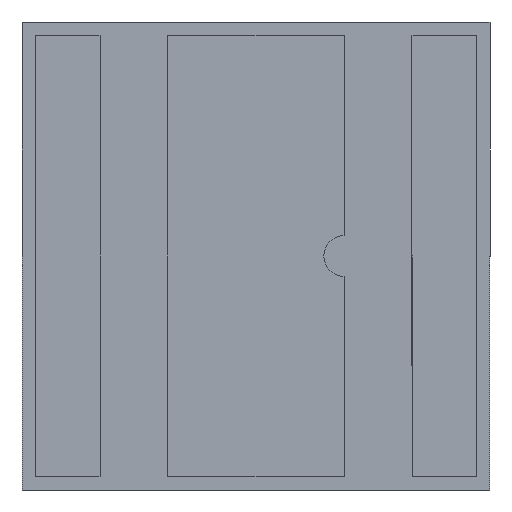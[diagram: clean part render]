
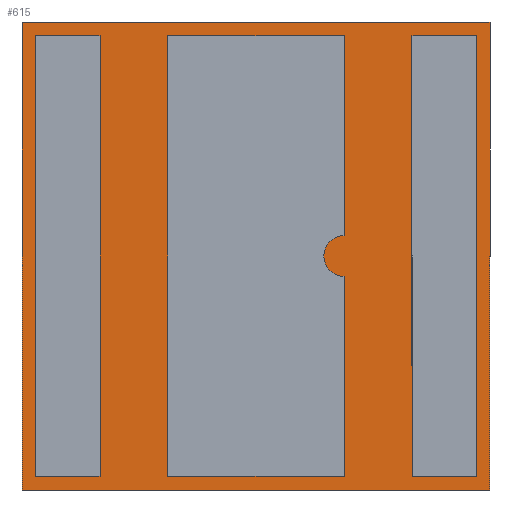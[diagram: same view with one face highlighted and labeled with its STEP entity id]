
A CAD part, front view. The second image highlights one B-rep face of the part: STEP entity #615.
In plain terms, the highlighted planar face has unit normal (0, -1, 0).
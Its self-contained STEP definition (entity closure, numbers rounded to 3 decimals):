
#3 = CARTESIAN_POINT ( 'NONE',  ( 1.625, 0., -1.625 ) ) ;
#9 = VECTOR ( 'NONE', #338, 1000. ) ;
#10 = ORIENTED_EDGE ( 'NONE', *, *, #570, .F. ) ;
#12 = DIRECTION ( 'NONE',  ( 0., 0., 1. ) ) ;
#28 = EDGE_LOOP ( 'NONE', ( #600, #41, #342, #10 ) ) ;
#33 = CARTESIAN_POINT ( 'NONE',  ( -1.15, 0., 1.625 ) ) ;
#38 = ORIENTED_EDGE ( 'NONE', *, *, #73, .F. ) ;
#39 = LINE ( 'NONE', #368, #820 ) ;
#41 = ORIENTED_EDGE ( 'NONE', *, *, #549, .F. ) ;
#47 = VERTEX_POINT ( 'NONE', #525 ) ;
#49 = CARTESIAN_POINT ( 'NONE',  ( -1.15, 0., 1.625 ) ) ;
#51 = EDGE_CURVE ( 'NONE', #721, #47, #39, .T. ) ;
#54 = VECTOR ( 'NONE', #914, 1000. ) ;
#63 = VERTEX_POINT ( 'NONE', #3 ) ;
#69 = CARTESIAN_POINT ( 'NONE',  ( -1.725, 0., -1.725 ) ) ;
#73 = EDGE_CURVE ( 'NONE', #745, #581, #703, .T. ) ;
#75 = CARTESIAN_POINT ( 'NONE',  ( 0.65, 0., -1.625 ) ) ;
#76 = EDGE_CURVE ( 'NONE', #626, #904, #488, .T. ) ;
#79 = VERTEX_POINT ( 'NONE', #75 ) ;
#85 = CARTESIAN_POINT ( 'NONE',  ( -1.725, 0., -1.725 ) ) ;
#88 = CARTESIAN_POINT ( 'NONE',  ( 1.15, 0., 0.137 ) ) ;
#94 = ORIENTED_EDGE ( 'NONE', *, *, #957, .F. ) ;
#98 = VECTOR ( 'NONE', #420, 1000. ) ;
#109 = VERTEX_POINT ( 'NONE', #634 ) ;
#111 = LINE ( 'NONE', #861, #950 ) ;
#119 = CARTESIAN_POINT ( 'NONE',  ( 1.725, 0., 1.725 ) ) ;
#123 = LINE ( 'NONE', #956, #98 ) ;
#135 = VERTEX_POINT ( 'NONE', #175 ) ;
#150 = LINE ( 'NONE', #85, #688 ) ;
#151 = LINE ( 'NONE', #49, #860 ) ;
#153 = LINE ( 'NONE', #88, #592 ) ;
#171 = CARTESIAN_POINT ( 'NONE',  ( -1.725, 0., -1.725 ) ) ;
#172 = PLANE ( 'NONE',  #659 ) ;
#175 = CARTESIAN_POINT ( 'NONE',  ( -1.725, 0., 1.725 ) ) ;
#179 = EDGE_LOOP ( 'NONE', ( #393, #460, #805, #38 ) ) ;
#183 = LINE ( 'NONE', #69, #590 ) ;
#186 = VECTOR ( 'NONE', #403, 1000. ) ;
#210 = VERTEX_POINT ( 'NONE', #725 ) ;
#215 = LINE ( 'NONE', #867, #9 ) ;
#222 = EDGE_CURVE ( 'NONE', #348, #558, #251, .T. ) ;
#228 = EDGE_CURVE ( 'NONE', #930, #63, #123, .T. ) ;
#251 = LINE ( 'NONE', #33, #545 ) ;
#253 = DIRECTION ( 'NONE',  ( 0., 0., -1. ) ) ;
#256 = DIRECTION ( 'NONE',  ( 0., 1., 0. ) ) ;
#261 = LINE ( 'NONE', #523, #559 ) ;
#269 = CARTESIAN_POINT ( 'NONE',  ( -1.15, 0., -1.625 ) ) ;
#277 = VERTEX_POINT ( 'NONE', #577 ) ;
#297 = DIRECTION ( 'NONE',  ( 1., 0., 0. ) ) ;
#301 = VECTOR ( 'NONE', #631, 1000. ) ;
#302 = VERTEX_POINT ( 'NONE', #119 ) ;
#307 = CARTESIAN_POINT ( 'NONE',  ( -1.625, 0., 1.625 ) ) ;
#315 = DIRECTION ( 'NONE',  ( 0., 0., -1. ) ) ;
#325 = CARTESIAN_POINT ( 'NONE',  ( 0.65, 0., 1.625 ) ) ;
#327 = CIRCLE ( 'NONE', #756, 0.15 ) ;
#336 = DIRECTION ( 'NONE',  ( 0., 0., 1. ) ) ;
#338 = DIRECTION ( 'NONE',  ( 1., 0., 0. ) ) ;
#342 = ORIENTED_EDGE ( 'NONE', *, *, #707, .F. ) ;
#348 = VERTEX_POINT ( 'NONE', #269 ) ;
#352 = EDGE_CURVE ( 'NONE', #558, #745, #151, .T. ) ;
#367 = VERTEX_POINT ( 'NONE', #664 ) ;
#368 = CARTESIAN_POINT ( 'NONE',  ( 0.65, 0., 1.625 ) ) ;
#373 = LINE ( 'NONE', #792, #186 ) ;
#393 = ORIENTED_EDGE ( 'NONE', *, *, #352, .F. ) ;
#403 = DIRECTION ( 'NONE',  ( 1., 0., 0. ) ) ;
#411 = DIRECTION ( 'NONE',  ( 0., 0., 1. ) ) ;
#418 = VECTOR ( 'NONE', #336, 1000. ) ;
#420 = DIRECTION ( 'NONE',  ( 1., 0., 0. ) ) ;
#435 = FACE_BOUND ( 'NONE', #487, .T. ) ;
#455 = DIRECTION ( 'NONE',  ( 0., 0., 1. ) ) ;
#456 = CARTESIAN_POINT ( 'NONE',  ( 1.625, 0., 1.625 ) ) ;
#460 = ORIENTED_EDGE ( 'NONE', *, *, #222, .F. ) ;
#468 = CARTESIAN_POINT ( 'NONE',  ( 1.625, 0., 1.625 ) ) ;
#470 = CARTESIAN_POINT ( 'NONE',  ( 0.65, 0., -0.15 ) ) ;
#476 = CARTESIAN_POINT ( 'NONE',  ( 1.15, 0., 1.625 ) ) ;
#487 = EDGE_LOOP ( 'NONE', ( #686, #775, #675, #493, #913, #717 ) ) ;
#488 = LINE ( 'NONE', #456, #982 ) ;
#489 = DIRECTION ( 'NONE',  ( 0., 0., 1. ) ) ;
#493 = ORIENTED_EDGE ( 'NONE', *, *, #662, .F. ) ;
#512 = ORIENTED_EDGE ( 'NONE', *, *, #859, .F. ) ;
#523 = CARTESIAN_POINT ( 'NONE',  ( -1.725, 0., 1.725 ) ) ;
#525 = CARTESIAN_POINT ( 'NONE',  ( -0.65, 0., 1.625 ) ) ;
#527 = FACE_OUTER_BOUND ( 'NONE', #28, .T. ) ;
#528 = CARTESIAN_POINT ( 'NONE',  ( -1.15, 0., 1.625 ) ) ;
#532 = EDGE_LOOP ( 'NONE', ( #895, #512, #613, #94 ) ) ;
#538 = CARTESIAN_POINT ( 'NONE',  ( -1.625, 0., -1.625 ) ) ;
#545 = VECTOR ( 'NONE', #489, 1000. ) ;
#549 = EDGE_CURVE ( 'NONE', #367, #743, #183, .T. ) ;
#550 = CARTESIAN_POINT ( 'NONE',  ( 0.65, 0., 0. ) ) ;
#557 = CARTESIAN_POINT ( 'NONE',  ( 1.625, 0., -1.625 ) ) ;
#558 = VERTEX_POINT ( 'NONE', #528 ) ;
#559 = VECTOR ( 'NONE', #297, 1000. ) ;
#569 = CARTESIAN_POINT ( 'NONE',  ( -0.65, 0., 1.625 ) ) ;
#570 = EDGE_CURVE ( 'NONE', #135, #302, #261, .T. ) ;
#577 = CARTESIAN_POINT ( 'NONE',  ( 0.65, 0., -0.15 ) ) ;
#581 = VERTEX_POINT ( 'NONE', #538 ) ;
#590 = VECTOR ( 'NONE', #754, 1000. ) ;
#592 = VECTOR ( 'NONE', #253, 1000. ) ;
#600 = ORIENTED_EDGE ( 'NONE', *, *, #606, .F. ) ;
#604 = CARTESIAN_POINT ( 'NONE',  ( -1.625, 0., 1.625 ) ) ;
#605 = DIRECTION ( 'NONE',  ( -1., 0., 0. ) ) ;
#606 = EDGE_CURVE ( 'NONE', #743, #135, #150, .T. ) ;
#607 = CARTESIAN_POINT ( 'NONE',  ( 0., 0., 0. ) ) ;
#613 = ORIENTED_EDGE ( 'NONE', *, *, #76, .F. ) ;
#614 = VECTOR ( 'NONE', #411, 1000. ) ;
#615 = ADVANCED_FACE ( 'NONE', ( #739, #527, #435, #971 ), #172, .F. ) ;
#625 = CARTESIAN_POINT ( 'NONE',  ( 0.65, 0., 1.625 ) ) ;
#626 = VERTEX_POINT ( 'NONE', #468 ) ;
#631 = DIRECTION ( 'NONE',  ( 0., 0., 1. ) ) ;
#634 = CARTESIAN_POINT ( 'NONE',  ( 0.65, 0., 0.15 ) ) ;
#638 = CARTESIAN_POINT ( 'NONE',  ( 1.15, 0., -1.625 ) ) ;
#653 = DIRECTION ( 'NONE',  ( 0., 0., -1. ) ) ;
#657 = EDGE_CURVE ( 'NONE', #277, #109, #327, .T. ) ;
#659 = AXIS2_PLACEMENT_3D ( 'NONE', #607, #923, #455 ) ;
#662 = EDGE_CURVE ( 'NONE', #79, #277, #750, .T. ) ;
#664 = CARTESIAN_POINT ( 'NONE',  ( 1.725, 0., -1.725 ) ) ;
#675 = ORIENTED_EDGE ( 'NONE', *, *, #657, .F. ) ;
#686 = ORIENTED_EDGE ( 'NONE', *, *, #51, .F. ) ;
#688 = VECTOR ( 'NONE', #12, 1000. ) ;
#703 = LINE ( 'NONE', #604, #54 ) ;
#707 = EDGE_CURVE ( 'NONE', #302, #367, #111, .T. ) ;
#717 = ORIENTED_EDGE ( 'NONE', *, *, #908, .F. ) ;
#721 = VERTEX_POINT ( 'NONE', #625 ) ;
#725 = CARTESIAN_POINT ( 'NONE',  ( -0.65, 0., -1.625 ) ) ;
#739 = FACE_BOUND ( 'NONE', #179, .T. ) ;
#743 = VERTEX_POINT ( 'NONE', #171 ) ;
#745 = VERTEX_POINT ( 'NONE', #307 ) ;
#750 = LINE ( 'NONE', #470, #301 ) ;
#754 = DIRECTION ( 'NONE',  ( -1., 0., 0. ) ) ;
#756 = AXIS2_PLACEMENT_3D ( 'NONE', #550, #256, #315 ) ;
#775 = ORIENTED_EDGE ( 'NONE', *, *, #905, .F. ) ;
#792 = CARTESIAN_POINT ( 'NONE',  ( -0.65, 0., -1.625 ) ) ;
#805 = ORIENTED_EDGE ( 'NONE', *, *, #958, .F. ) ;
#820 = VECTOR ( 'NONE', #911, 1000. ) ;
#821 = LINE ( 'NONE', #325, #614 ) ;
#844 = LINE ( 'NONE', #557, #418 ) ;
#859 = EDGE_CURVE ( 'NONE', #904, #930, #153, .T. ) ;
#860 = VECTOR ( 'NONE', #887, 1000. ) ;
#861 = CARTESIAN_POINT ( 'NONE',  ( 1.725, 0., -1.725 ) ) ;
#867 = CARTESIAN_POINT ( 'NONE',  ( -1.625, 0., -1.625 ) ) ;
#875 = VECTOR ( 'NONE', #653, 1000. ) ;
#887 = DIRECTION ( 'NONE',  ( -1., 0., 0. ) ) ;
#895 = ORIENTED_EDGE ( 'NONE', *, *, #228, .F. ) ;
#904 = VERTEX_POINT ( 'NONE', #476 ) ;
#905 = EDGE_CURVE ( 'NONE', #109, #721, #821, .T. ) ;
#908 = EDGE_CURVE ( 'NONE', #47, #210, #953, .T. ) ;
#911 = DIRECTION ( 'NONE',  ( -1., 0., 0. ) ) ;
#913 = ORIENTED_EDGE ( 'NONE', *, *, #976, .F. ) ;
#914 = DIRECTION ( 'NONE',  ( 0., 0., -1. ) ) ;
#923 = DIRECTION ( 'NONE',  ( 0., 1., 0. ) ) ;
#930 = VERTEX_POINT ( 'NONE', #638 ) ;
#933 = DIRECTION ( 'NONE',  ( 0., 0., -1. ) ) ;
#950 = VECTOR ( 'NONE', #933, 1000. ) ;
#953 = LINE ( 'NONE', #569, #875 ) ;
#956 = CARTESIAN_POINT ( 'NONE',  ( 1.15, 0., -1.625 ) ) ;
#957 = EDGE_CURVE ( 'NONE', #63, #626, #844, .T. ) ;
#958 = EDGE_CURVE ( 'NONE', #581, #348, #215, .T. ) ;
#971 = FACE_BOUND ( 'NONE', #532, .T. ) ;
#976 = EDGE_CURVE ( 'NONE', #210, #79, #373, .T. ) ;
#982 = VECTOR ( 'NONE', #605, 1000. ) ;
